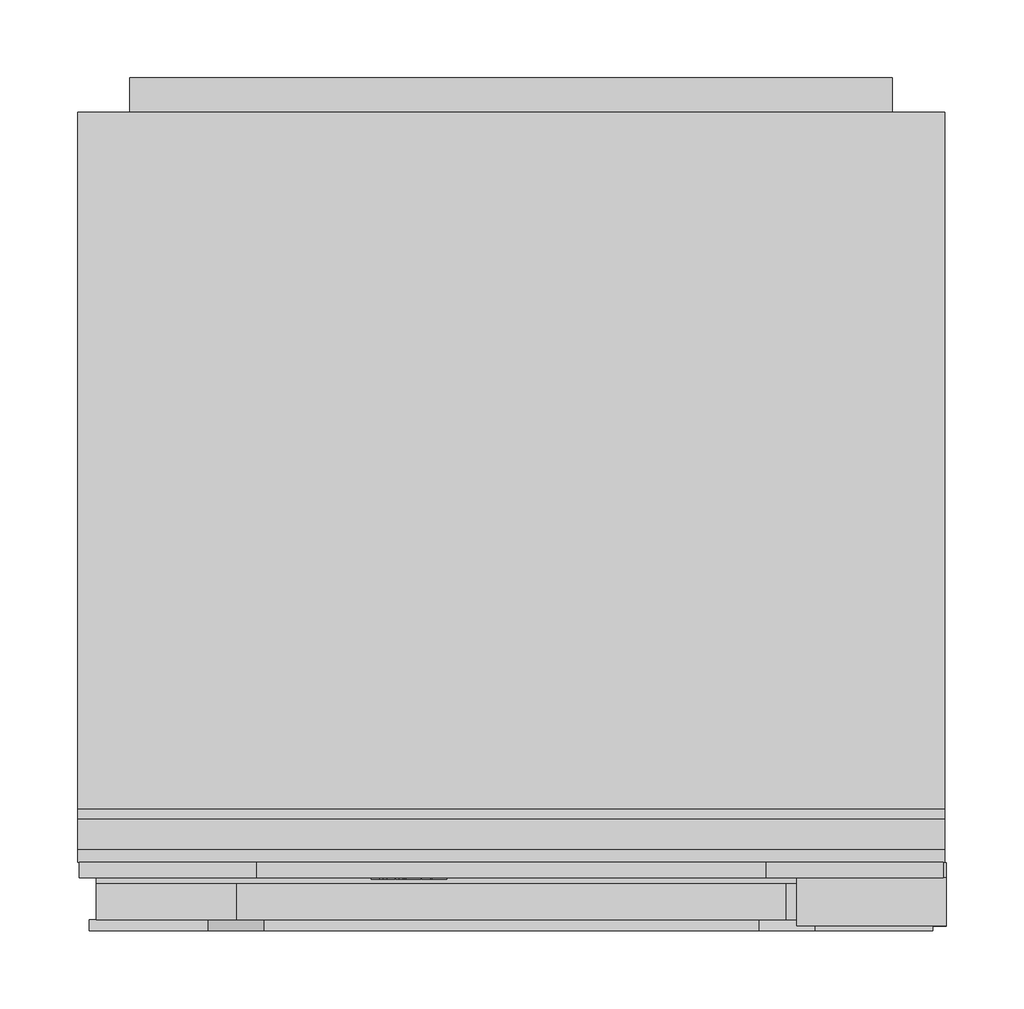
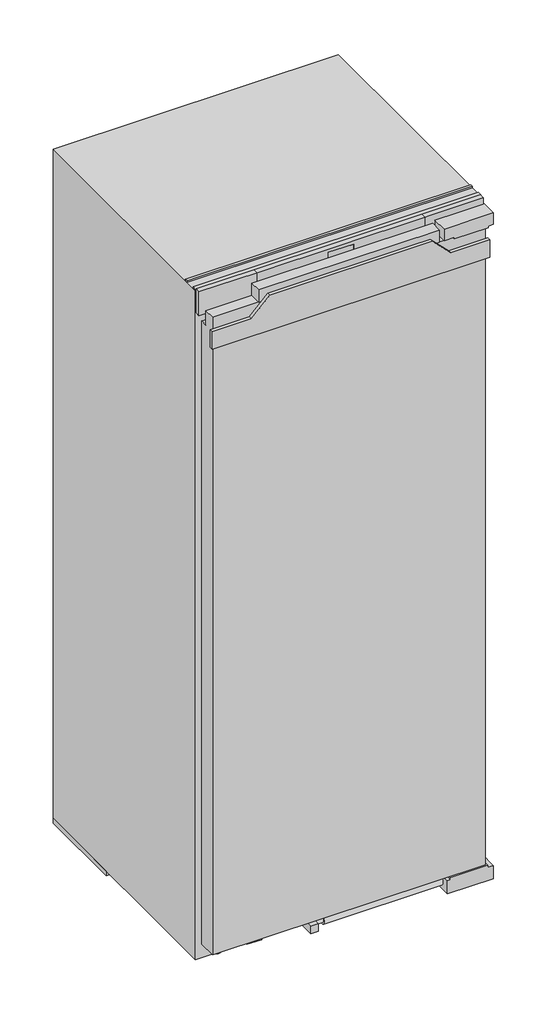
# Not in any storey: 1 proxy.
"""IFC4 building model written with IfcOpenShell, lengths in millimetres."""

import ifcopenshell
import ifcopenshell.guid

model = None  # the IFC model being written
_history = None  # IfcOwnerHistory: only IFC2X3 demands one
_inside = {}  # id of a spatial element -> (the spatial element, [elements in it])
_under = {}  # id of a project, library or spatial element -> (it, [spatial elements below it])
_declared = {}  # id of a project -> (the project, [libraries it declares])
_typed = {}  # id of a type object -> (the type object, [elements of that type])
_made_of = {}  # id of a material, layer set ... -> (it, [elements and type objects made of it])


def new_model(schema):
    """Start an empty IFC model of exactly this schema.

    Asked for "IFC4X3", IfcOpenShell would pick the latest addendum, in which some entities
    have other attributes; the version numbers below select the first issue.
    IFC2X3 requires an IfcOwnerHistory on every rooted entity: one is made here for all.
    """
    global model, _history
    if schema == "IFC4X3":
        model = ifcopenshell.file(schema_version=(4, 3, 0, 0))
    else:
        model = ifcopenshell.file(schema=schema)
    _inside.clear()
    _under.clear()
    _declared.clear()
    _typed.clear()
    _made_of.clear()
    _history = None
    if model.schema == "IFC2X3":
        org = make("IfcOrganization", Name="unknown")
        user = make(
            "IfcPersonAndOrganization",
            ThePerson=make("IfcPerson", FamilyName="unknown"),
            TheOrganization=org,
        )
        app = make(
            "IfcApplication",
            ApplicationDeveloper=org,
            Version="unknown",
            ApplicationFullName="unknown",
            ApplicationIdentifier="unknown",
        )
        _history = make(
            "IfcOwnerHistory",
            OwningUser=user,
            OwningApplication=app,
            ChangeAction="ADDED",
            CreationDate=0,
        )
    return model


def make(cls, **values):
    """One entity of the class cls with the attributes given. An attribute that is None is left unset."""
    return model.create_entity(
        cls, **{name: value for name, value in values.items() if value is not None}
    )


def rooted(cls, **values):
    """An entity with a GlobalId (a new one), such as an element, a storey or a relation."""
    return make(cls, GlobalId=ifcopenshell.guid.new(), OwnerHistory=_history, **values)


def si_unit(unit_type, name, prefix=None):
    """IfcSIUnit, for example si_unit("LENGTHUNIT", "METRE", prefix="MILLI")."""
    return make("IfcSIUnit", UnitType=unit_type, Prefix=prefix, Name=name)


def assignment(units):
    """IfcUnitAssignment: the units of a project."""
    return None if units is None else make("IfcUnitAssignment", Units=units)


def point(xyz):
    """IfcCartesianPoint."""
    return None if xyz is None else make("IfcCartesianPoint", Coordinates=xyz)


def direction(xyz):
    """IfcDirection."""
    return None if xyz is None else make("IfcDirection", DirectionRatios=xyz)


def frame(location, z_axis=None, x_axis=None):
    """IfcAxis2Placement3D, a coordinate frame: its origin and axes. An axis left out is left unset."""
    return make(
        "IfcAxis2Placement3D",
        Location=point(location),
        Axis=direction(z_axis),
        RefDirection=direction(x_axis),
    )


def frame_2d(location, x_axis=None):
    """IfcAxis2Placement2D, a coordinate frame in the plane: its origin and x axis."""
    return make(
        "IfcAxis2Placement2D", Location=point(location), RefDirection=direction(x_axis)
    )


def origin():
    """The frame at (0, 0, 0) with its axes left unset."""
    return frame((0.0, 0.0, 0.0))


def origin_with_axes():
    """The frame at (0, 0, 0) with the z axis (0, 0, 1) and the x axis (1, 0, 0) written out."""
    return frame((0.0, 0.0, 0.0), z_axis=(0.0, 0.0, 1.0), x_axis=(1.0, 0.0, 0.0))


def place(relative_to, where):
    """IfcLocalPlacement: puts the frame where relative to a parent placement (None: the world)."""
    return make(
        "IfcLocalPlacement", PlacementRelTo=relative_to, RelativePlacement=where
    )


def context(
    kind, dimensions, precision=None, world=None, true_north=None, identifier=None
):
    """IfcGeometricRepresentationContext, for example the 3D "Model" context."""
    return make(
        "IfcGeometricRepresentationContext",
        ContextIdentifier=identifier,
        ContextType=kind,
        CoordinateSpaceDimension=dimensions,
        Precision=precision,
        WorldCoordinateSystem=world,
        TrueNorth=true_north,
    )


def project(units=None, contexts=None):
    """IfcProject with its units and contexts."""
    return rooted(
        "IfcProject",
        Name="project",
        RepresentationContexts=contexts,
        UnitsInContext=assignment(units),
    )


def spatial(cls, under=None, at=None, **own):
    """A site, building, storey or space (cls), placed at a placement, below another one or the project."""
    s = rooted(cls, ObjectPlacement=at, **own)
    if under is not None:
        _under.setdefault(under.id(), (under, []))[1].append(s)
    return s


def polyline(points):
    """IfcPolyline through the points."""
    return make("IfcPolyline", Points=[point(p) for p in points])


def circle_curve(where, radius):
    """IfcCircle in the frame where."""
    return make("IfcCircle", Position=where, Radius=radius)


def ellipse_curve(where, semi_axis1, semi_axis2):
    """IfcEllipse in the frame where."""
    return make(
        "IfcEllipse", Position=where, SemiAxis1=semi_axis1, SemiAxis2=semi_axis2
    )


def trimmed(basis, trim1, trim2, sense, master):
    """IfcTrimmedCurve: the piece of a basis curve between two trims."""
    return make(
        "IfcTrimmedCurve",
        BasisCurve=basis,
        Trim1=trim1,
        Trim2=trim2,
        SenseAgreement=sense,
        MasterRepresentation=master,
    )


def segment(curve, same_sense, transition):
    """IfcCompositeCurveSegment."""
    return make(
        "IfcCompositeCurveSegment",
        Transition=transition,
        SameSense=same_sense,
        ParentCurve=curve,
    )


def composite_curve(segments, self_intersect=None):
    """IfcCompositeCurve: segments joined end to end."""
    return make("IfcCompositeCurve", Segments=segments, SelfIntersect=self_intersect)


def outline(outer, holes=None, kind="AREA"):
    """IfcArbitraryClosedProfileDef: a profile drawn as a closed curve; with holes, ...WithVoids."""
    if holes is None:
        return make("IfcArbitraryClosedProfileDef", ProfileType=kind, OuterCurve=outer)
    return make(
        "IfcArbitraryProfileDefWithVoids",
        ProfileType=kind,
        OuterCurve=outer,
        InnerCurves=holes,
    )


def extrude(swept, where, along, depth):
    """IfcExtrudedAreaSolid: the profile swept, set in the frame where, extruded along a direction by depth."""
    return make(
        "IfcExtrudedAreaSolid",
        SweptArea=swept,
        Position=where,
        ExtrudedDirection=direction(along),
        Depth=depth,
    )


def faces_of(points, faces, orient=None, outer=None):
    """IfcFace entities. A face is a list of loops; a loop is a list of indices into points, from 0.

    orient and outer hold one flag for each loop. By default every Orientation is true, the
    first loop of a face is its IfcFaceOuterBound and the others are IfcFaceBound.
    """
    made = []
    for i, loops in enumerate(faces):
        bounds = []
        for j, loop in enumerate(loops):
            is_outer = j == 0 if outer is None else outer[i][j]
            bounds.append(
                make(
                    "IfcFaceOuterBound" if is_outer else "IfcFaceBound",
                    Bound=make("IfcPolyLoop", Polygon=[points[k] for k in loop]),
                    Orientation=True if orient is None else orient[i][j],
                )
            )
        made.append(make("IfcFace", Bounds=bounds))
    return made


def faceted_brep(points, faces, orient=None, outer=None, voids=None):
    """IfcFacetedBrep: a solid bounded by flat faces; with voids (closed shells), ...WithVoids."""
    shared = [point(p) for p in points]
    hull = make("IfcClosedShell", CfsFaces=faces_of(shared, faces, orient, outer))
    if voids is None:
        return make("IfcFacetedBrep", Outer=hull)
    return make(
        "IfcFacetedBrepWithVoids",
        Outer=hull,
        Voids=[
            make(cls, CfsFaces=faces_of(shared, fs, o, b)) for cls, fs, o, b in voids
        ],
    )


def shape(context_of_items, identifier, shape_type, items):
    """IfcShapeRepresentation: the items that make up one representation, for example the "Body"."""
    return make(
        "IfcShapeRepresentation",
        ContextOfItems=context_of_items,
        RepresentationIdentifier=identifier,
        RepresentationType=shape_type,
        Items=items,
    )


def source(mapping_origin, context_of_items, identifier, shape_type, items):
    """IfcRepresentationMap: a shape defined once, which mapped items show again and again."""
    return make(
        "IfcRepresentationMap",
        MappingOrigin=mapping_origin,
        MappedRepresentation=shape(context_of_items, identifier, shape_type, items),
    )


def transform(
    local_origin,
    x_axis=None,
    y_axis=None,
    z_axis=None,
    scale=None,
    scale2=None,
    scale3=None,
    uniform=True,
):
    """IfcCartesianTransformationOperator3D, or its non-uniform kind. x_axis, y_axis, z_axis: its Axis1, 2, 3."""
    if uniform:
        return make(
            "IfcCartesianTransformationOperator3D",
            Axis1=direction(x_axis),
            Axis2=direction(y_axis),
            LocalOrigin=point(local_origin),
            Scale=scale,
            Axis3=direction(z_axis),
        )
    return make(
        "IfcCartesianTransformationOperator3DnonUniform",
        Axis1=direction(x_axis),
        Axis2=direction(y_axis),
        LocalOrigin=point(local_origin),
        Scale=scale,
        Axis3=direction(z_axis),
        Scale2=scale2,
        Scale3=scale3,
    )


def mapped(mapping_source, mapping_target):
    """IfcMappedItem: shows the shape of a source again, moved by a transform."""
    return make(
        "IfcMappedItem", MappingSource=mapping_source, MappingTarget=mapping_target
    )


def made_of(thing, what):
    """Note that an element or type object is made of a material, layer set ...; save() writes the relation."""
    if what is not None:
        _made_of.setdefault(what.id(), (what, []))[1].append(thing)
    return thing


def element(
    cls,
    number,
    at=None,
    inside=None,
    cuts=None,
    type_object=None,
    material=None,
    context=None,
    identifier="Body",
    shape_type=None,
    held_by="IfcProductDefinitionShape",
    body=None,
    shapes=None,
    **own,
):
    """One element of the class cls, such as IfcWall. Its Tag is "e" and its number.

    at: its placement. inside: the storey or other place that contains it. cuts: it is an
    opening in that element (IfcRelVoidsElement). A single representation is given by context,
    identifier, shape_type and body (its items); several are given by shapes. held_by: the class
    of the entity that holds the representations. save() writes the other relations.
    """
    e = rooted(cls, Tag="e%d" % number, ObjectPlacement=at, **own)
    if body is not None:
        shapes = [shape(context, identifier, shape_type, body)]
    if shapes is not None:
        e.Representation = make(held_by, Representations=shapes)
    if inside is not None:
        _inside.setdefault(inside.id(), (inside, []))[1].append(e)
    if cuts is not None:
        rooted(
            "IfcRelVoidsElement", RelatingBuildingElement=cuts, RelatedOpeningElement=e
        )
    if type_object is not None:
        _typed.setdefault(type_object.id(), (type_object, []))[1].append(e)
    return made_of(e, material)


def aggregate(whole, parts):
    """IfcRelAggregates: a whole, such as a stair, and the parts it consists of."""
    return rooted("IfcRelAggregates", RelatingObject=whole, RelatedObjects=parts)


def save(model, path):
    """Write the relations noted so far, then the file.

    IfcRelAggregates (storeys below a building ...), IfcRelContainedInSpatialStructure (elements
    in a storey), IfcRelDefinesByType, IfcRelAssociatesMaterial and IfcRelDeclares: one each for
    every whole, place, type object, material and project.
    """
    for whole, parts in _under.values():
        aggregate(whole, parts)
    for where, things in _inside.values():
        rooted(
            "IfcRelContainedInSpatialStructure",
            RelatedElements=things,
            RelatingStructure=where,
        )
    for kind, things in _typed.values():
        rooted("IfcRelDefinesByType", RelatedObjects=things, RelatingType=kind)
    for what, things in _made_of.values():
        rooted("IfcRelAssociatesMaterial", RelatedObjects=things, RelatingMaterial=what)
    for by, libraries in _declared.values():
        rooted("IfcRelDeclares", RelatingContext=by, RelatedDefinitions=libraries)
    model.write(path)


def plane_surface(at):
    """IfcPlane: the flat surface through the origin of the frame at, square to its z axis."""
    return make("IfcPlane", Position=at)


def cylinder_surface(at, radius):
    """IfcCylindricalSurface: all points at the distance radius from the z axis of the frame at."""
    return make("IfcCylindricalSurface", Position=at, Radius=radius)


def revolved_surface(curve, axis_point, axis_direction):
    """IfcSurfaceOfRevolution: the curve turned about the line through axis_point along axis_direction."""
    return make(
        "IfcSurfaceOfRevolution",
        SweptCurve=make("IfcArbitraryOpenProfileDef", ProfileType="CURVE", Curve=curve),
        AxisPosition=make("IfcAxis1Placement", Location=point(axis_point), Axis=direction(axis_direction)),
    )


def extruded_surface(curve, direction_of_extrusion, depth):
    """IfcSurfaceOfLinearExtrusion: the curve pushed along a direction by depth."""
    return make(
        "IfcSurfaceOfLinearExtrusion",
        SweptCurve=make("IfcArbitraryOpenProfileDef", ProfileType="CURVE", Curve=curve),
        ExtrudedDirection=direction(direction_of_extrusion),
        Depth=depth,
    )


def advanced_brep(points, edges, surfaces, faces):
    """IfcAdvancedBrep: a solid bounded by faces that lie on surfaces and meet in shared edges.

    An edge is (start, end): straight between two places in points (the first is 0);
    or (start, end, curve); or (start, end, curve, False) where it runs against its curve.
    A face is (place in surfaces, loops), or (place, loops, False) where it looks against
    its surface's normal. A loop lists edges by number (the first is 1), with a minus sign
    where the edge is run from its end to its start. The first loop is the outer one.
    """
    corners = [point(p) for p in points]
    vertices = [make("IfcVertexPoint", VertexGeometry=c) for c in corners]
    made = []
    for start, end, *more in edges:
        made.append(
            make(
                "IfcEdgeCurve",
                EdgeStart=vertices[start],
                EdgeEnd=vertices[end],
                EdgeGeometry=more[0] if more else make("IfcPolyline", Points=[corners[start], corners[end]]),
                SameSense=more[1] if len(more) > 1 else True,
            )
        )
    hull = []
    for where, loops, *sense in faces:
        bounds = []
        for j, loop in enumerate(loops):
            ring = [make("IfcOrientedEdge", EdgeElement=made[abs(k) - 1], Orientation=k > 0) for k in loop]
            bounds.append(
                make(
                    "IfcFaceOuterBound" if j == 0 else "IfcFaceBound",
                    Bound=make("IfcEdgeLoop", EdgeList=ring),
                    Orientation=True,
                )
            )
        hull.append(make("IfcAdvancedFace", Bounds=bounds, FaceSurface=surfaces[where], SameSense=sense[0] if sense else True))
    return make("IfcAdvancedBrep", Outer=make("IfcClosedShell", CfsFaces=hull))


def specialty_equipment_453559af(model_context):
    return source(origin(), model_context, "Body", "SolidModel", [
        advanced_brep(
        [(-46.64, 33.0, 1367.896), (-46.64, 33.0, 1368.704), (-41.288, 33.0, 1368.704), (-50.6, 33.0, 1368.704), (-48.4, 33.0, 1366.0), (-41.424, 33.0, 1367.896), (-43.84, 33.0, 1367.896), (-45.744, 33.0, 1367.0), (-46.64, 33.0, 1369.728), (-46.64, 33.0, 1370.6), (-45.272, 33.0, 1370.6), (-45.272, 33.0, 1369.728), (-46.64, 34.0, 1367.896), (-45.744, 34.0, 1367.0), (-43.84, 34.0, 1367.896), (-41.424, 34.0, 1367.896), (-48.4, 34.0, 1366.0), (-50.6, 34.0, 1368.704), (-41.288, 34.0, 1368.704), (-46.64, 34.0, 1368.704), (-46.64, 34.0, 1369.728), (-45.272, 34.0, 1369.728), (-45.272, 34.0, 1370.6), (-46.64, 34.0, 1370.6)],
        [
            (0, 1),
            (1, 2),
            (2, 3, ellipse_curve(frame((-45.944, 33.0, 1368.704), z_axis=(0.0, -1.0, 0.0), x_axis=(-1.0, 0.0, 0.0)), 4.656, 3.848)),
            (3, 4, circle_curve(frame((-47.5039564, 33.0, 1368.976), z_axis=(0.0, -1.0, 0.0), x_axis=(0.0, 0.0, -1.0)), 3.1079688)),
            (4, 5, circle_curve(frame((-46.0372064, 33.0, 1371.088), z_axis=(0.0, -1.0, 0.0), x_axis=(0.0, 0.0, -1.0)), 5.6098607)),
            (5, 6),
            (6, 7, circle_curve(frame((-45.3529412, 33.0, 1368.64), z_axis=(0.0, 1.0, 0.0), x_axis=(0.0, 0.0, -1.0)), 1.6859795)),
            (7, 0, circle_curve(frame((-45.744, 33.0, 1367.896), z_axis=(0.0, 1.0, 0.0), x_axis=(0.0, 0.0, -1.0)), 0.896)),
            (8, 9),
            (9, 10, circle_curve(frame((-45.956, 33.0, 1370.6), z_axis=(0.0, 1.0, 0.0), x_axis=(0.0, 0.0, -1.0)), 0.684)),
            (10, 11),
            (11, 8),
            (12, 13, circle_curve(frame((-45.744, 34.0, 1367.896), z_axis=(0.0, -1.0, 0.0), x_axis=(0.0, 0.0, -1.0)), 0.896)),
            (13, 14, circle_curve(frame((-45.3529412, 34.0, 1368.64), z_axis=(0.0, -1.0, 0.0), x_axis=(0.0, 0.0, -1.0)), 1.6859795)),
            (14, 15),
            (15, 16, circle_curve(frame((-46.0372064, 34.0, 1371.088), z_axis=(0.0, 1.0, 0.0), x_axis=(0.0, 0.0, -1.0)), 5.6098607)),
            (16, 17, circle_curve(frame((-47.5039564, 34.0, 1368.976), z_axis=(0.0, 1.0, 0.0), x_axis=(0.0, 0.0, -1.0)), 3.1079688)),
            (17, 18, ellipse_curve(frame((-45.944, 34.0, 1368.704), z_axis=(0.0, 1.0, 0.0), x_axis=(-1.0, 0.0, 0.0)), 4.656, 3.848)),
            (18, 19),
            (19, 12),
            (20, 21),
            (21, 22),
            (22, 23, circle_curve(frame((-45.956, 34.0, 1370.6), z_axis=(0.0, -1.0, 0.0), x_axis=(0.0, 0.0, -1.0)), 0.684)),
            (23, 20),
            (0, 12),
            (19, 1),
            (18, 2),
            (5, 15),
            (14, 6),
            (17, 3),
            (13, 7),
            (16, 4),
            (8, 20),
            (23, 9),
            (22, 10),
            (21, 11),
        ],
        [
            plane_surface(frame((-46.64, 33.0, 1368.704), z_axis=(0.0, -1.0, 0.0), x_axis=(0.0, 0.0, 1.0))),
            plane_surface(frame((-46.64, 34.0, 1368.704), z_axis=(0.0, 1.0, 0.0), x_axis=(0.0, 0.0, -1.0))),
            plane_surface(frame((-46.64, 33.0, 1367.896), z_axis=(1.0, 0.0, 0.0), x_axis=(0.0, 1.0, 0.0))),
            plane_surface(frame((-46.64, 33.0, 1368.704), z_axis=(0.0, 0.0, -1.0), x_axis=(0.0, 1.0, 0.0))),
            plane_surface(frame((-41.424, 33.0, 1367.896), z_axis=(0.0, 0.0, 1.0), x_axis=(0.0, 1.0, 0.0))),
            extruded_surface(trimmed(ellipse_curve(frame((-45.944, 35.0, 1368.704), z_axis=(0.0, -1.0, 0.0), x_axis=(-1.0, 0.0, 0.0)), 4.656, 3.848), [point((-41.288, 35.0, 1368.704))], [point((-50.6, 35.0, 1368.704))], True, "CARTESIAN"), (0.0, -1.0, 0.0), 1.0),
            revolved_surface(polyline([(-45.3529412, 34.0, 1366.9540205), (-45.3529412, 33.0, 1366.9540205)]), (-45.3529412, 34.0, 1368.64), (0.0, 1.0, 0.0)),
            revolved_surface(polyline([(-45.744, 34.0, 1367.0), (-45.744, 33.0, 1367.0)]), (-45.744, 34.0, 1367.896), (0.0, 1.0, 0.0)),
            cylinder_surface(frame((-47.5039564, 34.0, 1368.976), z_axis=(0.0, -1.0, 0.0), x_axis=(0.0, 0.0, -1.0)), 3.1079688),
            cylinder_surface(frame((-46.0372064, 34.0, 1371.088), z_axis=(0.0, -1.0, 0.0), x_axis=(0.0, 0.0, -1.0)), 5.6098607),
            plane_surface(frame((-46.64, 33.0, 1369.728), z_axis=(1.0, 0.0, 0.0), x_axis=(0.0, 1.0, 0.0))),
            revolved_surface(polyline([(-45.956, 34.0, 1369.916), (-45.956, 33.0, 1369.916)]), (-45.956, 34.0, 1370.6), (0.0, 1.0, 0.0)),
            plane_surface(frame((-45.272, 33.0, 1370.6), z_axis=(-1.0, 0.0, 0.0), x_axis=(0.0, 1.0, 0.0))),
            plane_surface(frame((-45.272, 33.0, 1369.728), z_axis=(0.0, 0.0, 1.0), x_axis=(0.0, 1.0, 0.0))),
        ],
        [
            (0, [[1, 2, 3, 4, 5, 6, 7, 8], [9, 10, 11, 12]]),
            (1, [[13, 14, 15, 16, 17, 18, 19, 20], [21, 22, 23, 24]]),
            (2, [[-1, 25, -20, 26]]),
            (3, [[-2, -26, -19, 27]]),
            (4, [[-6, 28, -15, 29]]),
            (5, [[-3, -27, -18, 30]]),
            (6, [[-7, -29, -14, 31]]),
            (7, [[-8, -31, -13, -25]]),
            (8, [[-4, -30, -17, 32]]),
            (9, [[-5, -32, -16, -28]]),
            (10, [[-9, 33, -24, 34]]),
            (11, [[-10, -34, -23, 35]]),
            (12, [[-11, -35, -22, 36]]),
            (13, [[-12, -36, -21, -33]]),
        ],
    ),
        advanced_brep(
        [(-63.336, 33.0, 1367.896), (-63.336, 33.0, 1368.704), (-57.984, 33.0, 1368.704), (-67.296, 33.0, 1368.704), (-65.096, 33.0, 1366.0), (-58.12, 33.0, 1367.896), (-60.536, 33.0, 1367.896), (-62.44, 33.0, 1367.0), (-63.336, 33.0, 1369.728), (-63.336, 33.0, 1370.6), (-61.968, 33.0, 1370.6), (-61.968, 33.0, 1369.728), (-63.336, 34.0, 1367.896), (-62.44, 34.0, 1367.0), (-60.536, 34.0, 1367.896), (-58.12, 34.0, 1367.896), (-65.096, 34.0, 1366.0), (-67.296, 34.0, 1368.704), (-57.984, 34.0, 1368.704), (-63.336, 34.0, 1368.704), (-63.336, 34.0, 1369.728), (-61.968, 34.0, 1369.728), (-61.968, 34.0, 1370.6), (-63.336, 34.0, 1370.6)],
        [
            (0, 1),
            (1, 2),
            (2, 3, ellipse_curve(frame((-62.64, 33.0, 1368.704), z_axis=(0.0, -1.0, 0.0), x_axis=(-1.0, 0.0, 0.0)), 4.656, 3.848)),
            (3, 4, circle_curve(frame((-64.1999564, 33.0, 1368.976), z_axis=(0.0, -1.0, 0.0), x_axis=(0.0, 0.0, -1.0)), 3.1079688)),
            (4, 5, circle_curve(frame((-62.7332064, 33.0, 1371.088), z_axis=(0.0, -1.0, 0.0), x_axis=(0.0, 0.0, -1.0)), 5.6098607)),
            (5, 6),
            (6, 7, circle_curve(frame((-62.0489412, 33.0, 1368.64), z_axis=(0.0, 1.0, 0.0), x_axis=(0.0, 0.0, -1.0)), 1.6859795)),
            (7, 0, circle_curve(frame((-62.44, 33.0, 1367.896), z_axis=(0.0, 1.0, 0.0), x_axis=(0.0, 0.0, -1.0)), 0.896)),
            (8, 9),
            (9, 10, circle_curve(frame((-62.652, 33.0, 1370.6), z_axis=(0.0, 1.0, 0.0), x_axis=(0.0, 0.0, -1.0)), 0.684)),
            (10, 11),
            (11, 8),
            (12, 13, circle_curve(frame((-62.44, 34.0, 1367.896), z_axis=(0.0, -1.0, 0.0), x_axis=(0.0, 0.0, -1.0)), 0.896)),
            (13, 14, circle_curve(frame((-62.0489412, 34.0, 1368.64), z_axis=(0.0, -1.0, 0.0), x_axis=(0.0, 0.0, -1.0)), 1.6859795)),
            (14, 15),
            (15, 16, circle_curve(frame((-62.7332064, 34.0, 1371.088), z_axis=(0.0, 1.0, 0.0), x_axis=(0.0, 0.0, -1.0)), 5.6098607)),
            (16, 17, circle_curve(frame((-64.1999564, 34.0, 1368.976), z_axis=(0.0, 1.0, 0.0), x_axis=(0.0, 0.0, -1.0)), 3.1079688)),
            (17, 18, ellipse_curve(frame((-62.64, 34.0, 1368.704), z_axis=(0.0, 1.0, 0.0), x_axis=(-1.0, 0.0, 0.0)), 4.656, 3.848)),
            (18, 19),
            (19, 12),
            (20, 21),
            (21, 22),
            (22, 23, circle_curve(frame((-62.652, 34.0, 1370.6), z_axis=(0.0, -1.0, 0.0), x_axis=(0.0, 0.0, -1.0)), 0.684)),
            (23, 20),
            (0, 12),
            (19, 1),
            (18, 2),
            (5, 15),
            (14, 6),
            (17, 3),
            (13, 7),
            (16, 4),
            (8, 20),
            (23, 9),
            (22, 10),
            (21, 11),
        ],
        [
            plane_surface(frame((-63.336, 33.0, 1368.704), z_axis=(0.0, -1.0, 0.0), x_axis=(0.0, 0.0, 1.0))),
            plane_surface(frame((-63.336, 34.0, 1368.704), z_axis=(0.0, 1.0, 0.0), x_axis=(0.0, 0.0, -1.0))),
            plane_surface(frame((-63.336, 33.0, 1367.896), z_axis=(1.0, 0.0, 0.0), x_axis=(0.0, 1.0, 0.0))),
            plane_surface(frame((-63.336, 33.0, 1368.704), z_axis=(0.0, 0.0, -1.0), x_axis=(0.0, 1.0, 0.0))),
            plane_surface(frame((-58.12, 33.0, 1367.896), z_axis=(0.0, 0.0, 1.0), x_axis=(0.0, 1.0, 0.0))),
            extruded_surface(trimmed(ellipse_curve(frame((-62.64, 35.0, 1368.704), z_axis=(0.0, -1.0, 0.0), x_axis=(-1.0, 0.0, 0.0)), 4.656, 3.848), [point((-57.984, 35.0, 1368.704))], [point((-67.296, 35.0, 1368.704))], True, "CARTESIAN"), (0.0, -1.0, 0.0), 1.0),
            revolved_surface(polyline([(-62.0489412, 34.0, 1366.9540205), (-62.0489412, 33.0, 1366.9540205)]), (-62.0489412, 34.0, 1368.64), (0.0, 1.0, 0.0)),
            revolved_surface(polyline([(-62.44, 34.0, 1367.0), (-62.44, 33.0, 1367.0)]), (-62.44, 34.0, 1367.896), (0.0, 1.0, 0.0)),
            cylinder_surface(frame((-64.1999564, 34.0, 1368.976), z_axis=(0.0, -1.0, 0.0), x_axis=(0.0, 0.0, -1.0)), 3.1079688),
            cylinder_surface(frame((-62.7332064, 34.0, 1371.088), z_axis=(0.0, -1.0, 0.0), x_axis=(0.0, 0.0, -1.0)), 5.6098607),
            plane_surface(frame((-63.336, 33.0, 1369.728), z_axis=(1.0, 0.0, 0.0), x_axis=(0.0, 1.0, 0.0))),
            revolved_surface(polyline([(-62.652, 34.0, 1369.916), (-62.652, 33.0, 1369.916)]), (-62.652, 34.0, 1370.6), (0.0, 1.0, 0.0)),
            plane_surface(frame((-61.968, 33.0, 1370.6), z_axis=(-1.0, 0.0, 0.0), x_axis=(0.0, 1.0, 0.0))),
            plane_surface(frame((-61.968, 33.0, 1369.728), z_axis=(0.0, 0.0, 1.0), x_axis=(0.0, 1.0, 0.0))),
        ],
        [
            (0, [[1, 2, 3, 4, 5, 6, 7, 8], [9, 10, 11, 12]]),
            (1, [[13, 14, 15, 16, 17, 18, 19, 20], [21, 22, 23, 24]]),
            (2, [[-1, 25, -20, 26]]),
            (3, [[-2, -26, -19, 27]]),
            (4, [[-6, 28, -15, 29]]),
            (5, [[-3, -27, -18, 30]]),
            (6, [[-7, -29, -14, 31]]),
            (7, [[-8, -31, -13, -25]]),
            (8, [[-4, -30, -17, 32]]),
            (9, [[-5, -32, -16, -28]]),
            (10, [[-9, 33, -24, 34]]),
            (11, [[-10, -34, -23, 35]]),
            (12, [[-11, -35, -22, 36]]),
            (13, [[-12, -36, -21, -33]]),
        ],
    ),
        extrude(outline(polyline([(1373.528, -72.08), (1372.232, -71.472), (1373.496, -68.76), (1374.792, -69.36), (1373.528, -72.08)])), frame((0.0, 33.0, 0.0), z_axis=(0.0, 1.0, 0.0), x_axis=(0.0, 0.0, 1.0)), (0.0, 0.0, 1.0), 1.0),
        extrude(outline(polyline([(1372.056, -74.056), (1370.624, -74.056), (1370.624, -73.104), (1367.344, -73.104), (1367.344, -74.056), (1366.0, -74.056), (1366.0, -67.744), (1367.344, -67.744), (1367.344, -68.672), (1372.056, -68.672), (1372.056, -74.056)])), frame((0.0, 33.0, 0.0), z_axis=(0.0, 1.0, 0.0), x_axis=(0.0, 0.0, 1.0)), (0.0, 0.0, 1.0), 1.0),
        extrude(outline(polyline([(1372.696, -57.536), (1372.696, -56.576), (1367.344, -56.576), (1367.344, -57.536), (1366.0, -57.536), (1366.0, -51.048), (1367.344, -51.048), (1367.344, -52.032), (1374.0, -52.032), (1374.0, -57.536), (1372.696, -57.536)])), frame((0.0, 33.0, 0.0), z_axis=(0.0, 1.0, 0.0), x_axis=(0.0, 0.0, 1.0)), (0.0, 0.0, 1.0), 1.0),
        extrude(outline(polyline([(1372.696, -90.0), (1372.696, -89.032), (1367.344, -89.032), (1367.344, -90.0), (1366.0, -90.0), (1366.0, -86.48), (1367.344, -86.48), (1367.344, -87.44), (1370.7471247, -87.44), (1366.0, -83.864), (1370.8152223, -80.272), (1367.344, -80.272), (1367.344, -81.256), (1366.0, -81.256), (1366.0, -74.872), (1367.344, -74.872), (1367.344, -75.888), (1372.696, -75.888), (1372.696, -74.872), (1374.0, -74.872), (1374.0, -79.744), (1371.0, -82.08), (1374.0, -84.424), (1374.0, -90.0), (1372.696, -90.0)])), frame((0.0, 33.0, 0.0), z_axis=(0.0, 1.0, 0.0), x_axis=(0.0, 0.0, 1.0)), (0.0, 0.0, 1.0), 1.0),
        faceted_brep([(163.5, 34.0, 1395.0), (-163.5, 34.0, 1395.0), (-163.5, 34.0, 1346.0), (163.5, 34.0, 1346.0), (24.5, 34.0, 1388.0), (24.5, 34.0, 1352.0), (-24.5, 34.0, 1352.0), (-24.5, 34.0, 1388.0), (163.5, 44.0, 1395.0), (163.5, 44.0, 1346.0), (-163.5, 44.0, 1346.0), (-163.5, 44.0, 1395.0), (24.5, 35.0, 1388.0), (-24.5, 35.0, 1388.0), (-24.5, 35.0, 1352.0), (24.5, 35.0, 1352.0)], [[[0, 1, 2, 3], [4, 5, 6, 7]], [[8, 9, 10, 11]], [[0, 3, 9, 8]], [[3, 2, 10, 9]], [[2, 1, 11, 10]], [[1, 0, 8, 11]], [[12, 13, 14, 15]], [[12, 15, 5, 4]], [[15, 14, 6, 5]], [[14, 13, 7, 6]], [[13, 12, 4, 7]]]),
        extrude(outline(polyline([(163.5, 44.0), (277.5, 44.0), (277.5, 34.0), (163.5, 34.0), (163.5, 44.0)])), frame((0.0, 0.0, 1346.0), z_axis=(0.0, 0.0, 1.0), x_axis=(1.0, 0.0, 0.0)), (0.0, 0.0, 1.0), 49.0),
        extrude(outline(polyline([(-277.5, 44.0), (-163.5, 44.0), (-163.5, 34.0), (-277.5, 34.0), (-277.5, 44.0)])), frame((0.0, 0.0, 1346.0), z_axis=(0.0, 0.0, 1.0), x_axis=(1.0, 0.0, 0.0)), (0.0, 0.0, 1.0), 49.0),
        extrude(outline(polyline([(-24.5, 35.0), (24.5, 35.0), (24.5, 34.0), (-24.5, 34.0), (-24.5, 35.0)])), frame((0.0, 0.0, 1352.0), z_axis=(0.0, 0.0, 1.0), x_axis=(1.0, 0.0, 0.0)), (0.0, 0.0, 1.0), 36.0),
        extrude(outline(polyline([(1347.0, -245.0), (27.0, -245.0), (27.0, 245.0), (130.0, 245.0), (130.0, 180.0), (160.0, 180.0), (160.0, 245.0), (1347.0, 245.0), (1347.0, -245.0)])), frame((0.0, 526.0, 0.0), z_axis=(0.0, 1.0, 0.0), x_axis=(0.0, 0.0, 1.0)), (0.0, 0.0, 1.0), 22.0),
        extrude(outline(polyline([(-144.9296686, 52.0), (-174.0, 52.0), (-194.4880722, 346.0), (-165.4177409, 346.0), (-144.9296686, 52.0)])), origin_with_axes(), (0.0, 0.0, 1.0), 10.0),
        extrude(outline(polyline([(144.9296686, 52.0), (165.4177409, 346.0), (194.4880722, 346.0), (174.0, 52.0), (144.9296686, 52.0)])), origin_with_axes(), (0.0, 0.0, 1.0), 10.0),
        extrude(outline(polyline([(539.651012, 148.8988246), (539.651012, 150.150839), (546.8850603, 150.150839), (546.8850603, 140.1043073), (539.5027529, 140.1043073), (539.5027529, 141.3585545), (545.6152499, 141.3585545), (545.6152499, 144.6556887), (539.967462, 144.6556887), (539.967462, 145.9162842), (545.6270824, 145.9162842), (545.6270824, 148.8988246), (539.651012, 148.8988246)])), frame((193.5, 0.0, 0.0), z_axis=(1.0, 0.0, 0.0), x_axis=(0.0, 1.0, 0.0)), (0.0, 0.0, 1.0), 1.0),
        extrude(outline(polyline([(537.624075, 150.150839), (537.624075, 140.1043073), (531.3334819, 140.1043073), (531.3334819, 141.3573374), (536.3334819, 141.3573374), (536.3334819, 150.150839), (537.624075, 150.150839)])), frame((193.5, 0.0, 0.0), z_axis=(1.0, 0.0, 0.0), x_axis=(0.0, 1.0, 0.0)), (0.0, 0.0, 1.0), 1.0),
        advanced_brep(
        [(232.0, 526.0, 145.0), (217.0, 526.0, 145.0), (232.0, 547.5, 145.0), (217.0, 532.5, 145.0), (194.5, 547.5, 145.0), (194.5, 532.5, 145.0)],
        [
            (0, 1, circle_curve(frame((224.5, 526.0, 145.0), z_axis=(0.0, -1.0, 0.0), x_axis=(-1.0, 0.0, 0.0)), 7.5)),
            (1, 0, circle_curve(frame((224.5, 526.0, 145.0), z_axis=(0.0, -1.0, 0.0), x_axis=(-1.0, 0.0, 0.0)), 7.5)),
            (0, 2),
            (2, 3, ellipse_curve(frame((224.5, 540.0, 145.0), z_axis=(0.7071067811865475, -0.7071067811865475, 0.0), x_axis=(-0.7071067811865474, -0.7071067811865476, 0.0)), 10.6066017, 7.5)),
            (3, 1),
            (3, 2, ellipse_curve(frame((224.5, 540.0, 145.0), z_axis=(0.7071067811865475, -0.7071067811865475, 0.0), x_axis=(-0.7071067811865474, -0.7071067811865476, 0.0)), 10.6066017, 7.5)),
            (4, 5, circle_curve(frame((194.5, 540.0, 145.0), z_axis=(-1.0, 0.0, 0.0), x_axis=(0.0, -1.0, 0.0)), 7.5)),
            (5, 4, circle_curve(frame((194.5, 540.0, 145.0), z_axis=(-1.0, 0.0, 0.0), x_axis=(0.0, -1.0, 0.0)), 7.5)),
            (2, 4),
            (5, 3),
        ],
        [
            plane_surface(frame((224.5, 526.0, 145.0), z_axis=(0.0, -1.0, 0.0), x_axis=(0.0, 0.0, 1.0))),
            cylinder_surface(frame((224.5, 526.0, 145.0), z_axis=(0.0, -1.0, 0.0), x_axis=(-1.0, 0.0, 0.0)), 7.5),
            plane_surface(frame((194.5, 540.0, 145.0), z_axis=(-1.0, 0.0, 0.0), x_axis=(0.0, 0.0, 1.0))),
            cylinder_surface(frame((224.5, 540.0, 145.0), z_axis=(1.0, 0.0, 0.0), x_axis=(0.0, -1.0, 0.0)), 7.5),
        ],
        [
            (0, [[1, 2]]),
            (1, [[-1, 3, 4, 5]]),
            (1, [[-2, -5, 6, -3]]),
            (2, [[7, 8]]),
            (3, [[-4, 9, -8, 10]]),
            (3, [[-6, -10, -7, -9]]),
        ],
    ),
        extrude(outline(polyline([(-34.0, 44.0), (34.0, 44.0), (34.0, 35.0), (-34.0, 35.0), (-34.0, 44.0)])), frame((0.0, 0.0, 13.0), z_axis=(0.0, 0.0, 1.0), x_axis=(1.0, 0.0, 0.0)), (0.0, 0.0, 1.0), 19.0),
        extrude(outline(polyline([(-233.5, 44.0), (-233.5, 488.0), (233.5, 488.0), (233.5, 44.0), (-233.5, 44.0)])), frame((0.0, 0.0, 477.0), z_axis=(0.0, 0.0, 1.0), x_axis=(1.0, 0.0, 0.0)), (0.0, 0.0, 1.0), 3.0),
        extrude(outline(polyline([(-233.5, 350.0), (-233.5, 488.0), (233.5, 488.0), (233.5, 350.0), (-233.5, 350.0)])), frame((0.0, 0.0, 62.0), z_axis=(0.0, 0.0, 1.0), x_axis=(1.0, 0.0, 0.0)), (0.0, 0.0, 1.0), 188.0),
        extrude(outline(composite_curve([segment(trimmed(circle_curve(frame_2d((228.0, 64.0)), 11.0), [point((239.0, 64.0))], [point((217.0, 64.0))], False, "CARTESIAN"), True, "CONTINUOUS"), segment(trimmed(circle_curve(frame_2d((228.0, 64.0)), 11.0), [point((217.0, 64.0))], [point((239.0, 64.0))], False, "CARTESIAN"), True, "CONTINUOUS")], self_intersect=False)), origin_with_axes(), (0.0, 0.0, 1.0), 10.0),
        extrude(outline(composite_curve([segment(trimmed(circle_curve(frame_2d((-228.0, 64.0)), 11.0), [point((-217.0, 64.0))], [point((-239.0, 64.0))], False, "CARTESIAN"), True, "CONTINUOUS"), segment(trimmed(circle_curve(frame_2d((-228.0, 64.0)), 11.0), [point((-239.0, 64.0))], [point((-217.0, 64.0))], False, "CARTESIAN"), True, "CONTINUOUS")], self_intersect=False)), origin_with_axes(), (0.0, 0.0, 1.0), 10.0),
        extrude(outline(polyline([(278.5, 526.0), (278.5, 346.0), (-278.5, 346.0), (-278.5, 526.0), (278.5, 526.0)])), origin_with_axes(), (0.0, 0.0, 1.0), 10.0),
        extrude(outline(polyline([(278.5, 52.0), (278.5, 44.0), (-278.5, 44.0), (-278.5, 52.0), (278.5, 52.0)])), frame((0.0, 0.0, 1392.0), z_axis=(0.0, 0.0, 1.0), x_axis=(1.0, 0.0, 0.0)), (0.0, 0.0, 1.0), 3.0),
        extrude(outline(polyline([(278.5, 78.0), (278.5, 72.0), (-278.5, 72.0), (-278.5, 78.0), (278.5, 78.0)])), frame((0.0, 0.0, 1392.0), z_axis=(0.0, 0.0, 1.0), x_axis=(1.0, 0.0, 0.0)), (0.0, 0.0, 1.0), 3.0),
        faceted_brep([(278.5, 526.0, 1392.0), (-278.5, 526.0, 1392.0), (-278.5, 44.0, 1392.0), (278.5, 44.0, 1392.0), (278.5, 526.0, 10.0), (278.5, 44.0, 10.0), (-278.5, 44.0, 10.0), (-278.5, 526.0, 10.0), (233.5, 44.0, 62.0), (-233.5, 44.0, 62.0), (-233.5, 44.0, 570.0), (-233.5, 44.0, 1317.0), (233.5, 44.0, 1317.0), (233.5, 44.0, 570.0), (233.5, 488.0, 1317.0), (-233.5, 488.0, 1317.0), (-233.5, 488.0, 570.0), (-233.5, 488.0, 62.0), (233.5, 488.0, 62.0), (233.5, 488.0, 570.0)], [[[0, 1, 2, 3]], [[4, 5, 6, 7]], [[1, 0, 4, 7]], [[2, 1, 7, 6]], [[3, 2, 6, 5], [8, 9, 10, 11, 12, 13]], [[0, 3, 5, 4]], [[14, 15, 16, 17, 18, 19]], [[18, 8, 13, 12, 14, 19]], [[18, 17, 9, 8]], [[9, 17, 16, 15, 11, 10]], [[15, 14, 12, 11]]]),
        extrude(outline(polyline([(1295.0, 271.0), (1331.0, 271.0), (1331.0, 195.0), (1367.0, 159.0), (1367.0, -159.0), (1331.0, -195.0), (1331.0, -271.0), (1295.0, -271.0), (1295.0, 271.0)])), frame((0.0, 0.0, 0.0), z_axis=(0.0, 1.0, 0.0), x_axis=(0.0, 0.0, 1.0)), (0.0, 0.0, 1.0), 7.0),
        extrude(outline(composite_curve([segment(trimmed(circle_curve(frame_2d((-65.5, 25.0)), 6.5), [point((-72.0, 25.0))], [point((-59.0, 25.0))], False, "CARTESIAN"), True, "CONTINUOUS"), segment(trimmed(circle_curve(frame_2d((-65.5, 25.0)), 6.5), [point((-59.0, 25.0))], [point((-72.0, 25.0))], False, "CARTESIAN"), True, "CONTINUOUS")], self_intersect=False)), frame((0.0, 0.0, 29.0), z_axis=(0.0, 0.0, 1.0), x_axis=(1.0, 0.0, 0.0)), (0.0, 0.0, 1.0), 9.0),
        extrude(outline(polyline([(-74.0, 42.0), (-59.0, 42.0), (-59.0, 8.0), (-74.0, 8.0), (-74.0, 42.0)])), frame((0.0, 0.0, 14.0), z_axis=(0.0, 0.0, 1.0), x_axis=(1.0, 0.0, 0.0)), (0.0, 0.0, 1.0), 15.0),
        extrude(outline(polyline([(176.5, 7.0), (-176.5, 7.0), (-176.5, 30.0), (176.5, 30.0), (176.5, 7.0)])), frame((0.0, 0.0, 1355.0), z_axis=(0.0, 0.0, 1.0), x_axis=(1.0, 0.0, 0.0)), (0.0, 0.0, 1.0), 25.0),
        extrude(outline(polyline([(7.0, 38.0), (7.0, 1355.0), (30.0, 1355.0), (30.0, 1325.0), (44.0, 1325.0), (44.0, 38.0), (7.0, 38.0)])), frame((-266.5, 0.0, 0.0), z_axis=(1.0, 0.0, 0.0), x_axis=(0.0, 1.0, 0.0)), (0.0, 0.0, 1.0), 533.0),
        extrude(outline(polyline([(34.0, 189.5), (7.0, 189.5), (7.0, 279.5), (34.0, 279.5), (34.0, 268.5), (38.0, 268.5), (38.0, 195.5), (34.0, 195.5), (34.0, 189.5)])), frame((0.0, 3.0, 0.0), z_axis=(0.0, 1.0, 0.0), x_axis=(0.0, 0.0, 1.0)), (0.0, 0.0, 1.0), 41.0),
        extrude(outline(polyline([(1355.0, 203.5), (1355.0, 269.5), (1358.0, 269.5), (1358.0, 279.5), (1382.0, 279.5), (1382.0, 183.5), (1358.0, 183.5), (1358.0, 203.5), (1355.0, 203.5)])), frame((0.0, 3.0, 0.0), z_axis=(0.0, 1.0, 0.0), x_axis=(0.0, 0.0, 1.0)), (0.0, 0.0, 1.0), 31.0),
        extrude(outline(composite_curve([segment(trimmed(circle_curve(frame_2d((25.0, 23.0)), 6.0), [point((25.0, 29.0))], [point((25.0, 17.0))], False, "CARTESIAN"), True, "CONTINUOUS"), segment(trimmed(circle_curve(frame_2d((25.0, 23.0)), 6.0), [point((25.0, 17.0))], [point((25.0, 29.0))], False, "CARTESIAN"), True, "CONTINUOUS")], self_intersect=False)), frame((-59.0, 0.0, 0.0), z_axis=(1.0, 0.0, 0.0), x_axis=(0.0, 1.0, 0.0)), (0.0, 0.0, 1.0), 16.0),
        extrude(outline(composite_curve([segment(trimmed(circle_curve(frame_2d((25.0, 23.0)), 9.0), [point((25.0, 32.0))], [point((25.0, 14.0))], False, "CARTESIAN"), True, "CONTINUOUS"), segment(trimmed(circle_curve(frame_2d((25.0, 23.0)), 9.0), [point((25.0, 14.0))], [point((25.0, 32.0))], False, "CARTESIAN"), True, "CONTINUOUS")], self_intersect=False)), frame((-43.0, 0.0, 0.0), z_axis=(1.0, 0.0, 0.0), x_axis=(0.0, 1.0, 0.0)), (0.0, 0.0, 1.0), 232.5),
    ])


model = new_model("IFC4")

# Units and contexts
model_context = context("Model", 3, world=origin())
ifc_project = project(units=[si_unit("LENGTHUNIT", "METRE", prefix="MILLI")], contexts=[model_context])

# Site, building
site = spatial("IfcSite", under=ifc_project)
building = spatial("IfcBuilding", under=site)

# Proxy
placement = place(None, origin())
specialty_equipment_shape = specialty_equipment_453559af(model_context)
element("IfcBuildingElementProxy", 1, Name="11641350_EU1_K7473D : 36747300_EU1_11641350_K7473D", ObjectType="11641350_EU1_K7473D : 36747300_EU1_11641350_K7473D", at=placement, inside=building, context=model_context, shape_type="MappedRepresentation", body=[
    mapped(specialty_equipment_shape, transform((0.0, 0.0, 0.0), x_axis=(1.0, 0.0, 0.0), y_axis=(0.0, 1.0, 0.0), z_axis=(0.0, 0.0, 1.0))),
])

save(model, "model.ifc")
